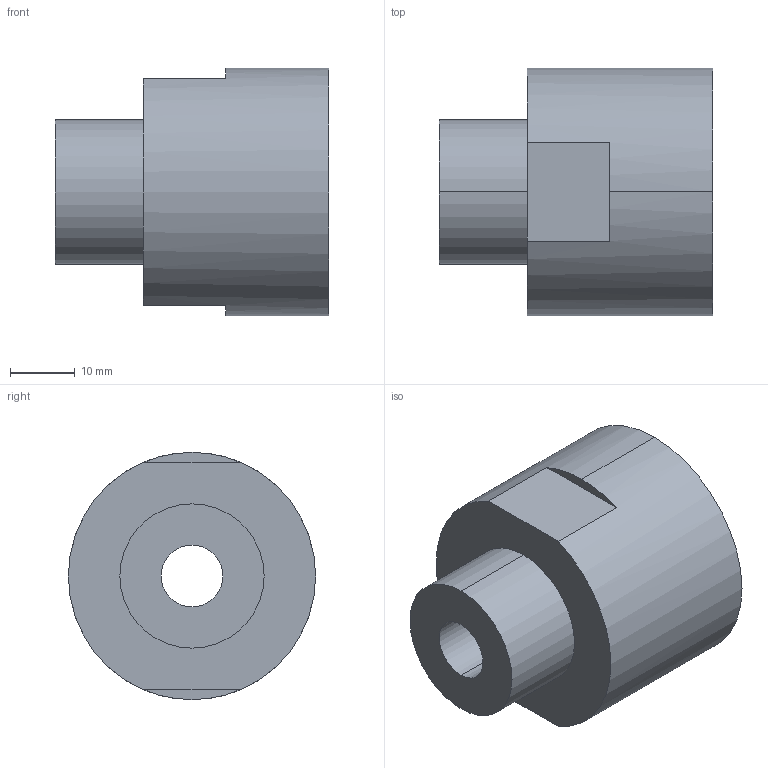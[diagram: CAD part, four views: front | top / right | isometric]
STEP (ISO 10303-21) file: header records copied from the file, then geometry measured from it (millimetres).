
FILE_DESCRIPTION (( 'STEP AP214' ), '1' );
FILE_NAME ('Fitting FNPT 12.STEP', '2012-09-26T20:03:31', ( '' ), ( '' ), 'SwSTEP 2.0', 'SolidWorks 2012', '' );
FILE_SCHEMA (( 'AUTOMOTIVE_DESIGN' ));
Length unit declared in the file: inch
Products named in the file (1): Fitting FNPT 12
Bounding box: 42.19 x 38.1 x 38.1 mm (x, y, z)
Volume: 27649.6 mm3; surface area: 8589.4 mm2
Topology: 1 solids, 1 shells, 18 faces, 40 edges, 26 vertices
Faces by surface type: cylinder 8, plane 8, cone 2
Entity records: 593 total; most frequent: DIRECTION 100, CARTESIAN_POINT 85, ORIENTED_EDGE 80, AXIS2_PLACEMENT_3D 41, EDGE_CURVE 40, VERTEX_POINT 26, CIRCLE 22, EDGE_LOOP 22
